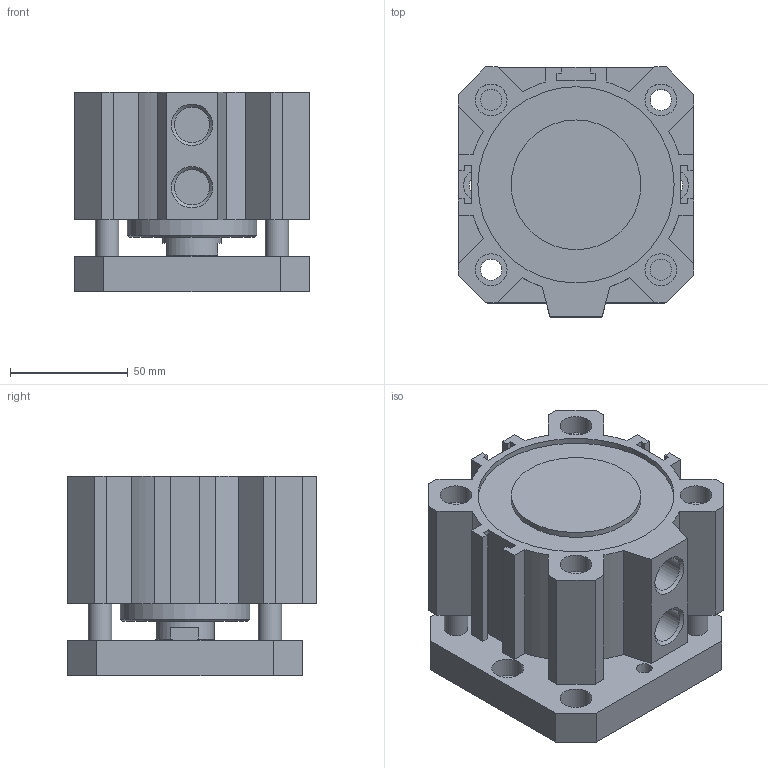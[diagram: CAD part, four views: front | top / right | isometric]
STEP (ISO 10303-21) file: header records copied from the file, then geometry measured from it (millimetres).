
FILE_DESCRIPTION(/* description */ (''),/* implementation_level */ '2;1');
FILE_NAME(/* name */ 'I:\Area Tecnica\Disegni\VARIE-3D\Componenti\1500\Ø80\15##_80_####_#\1501_80_0010_AR.stp',/* time_stamp */ '2016-08-24T14:11:41+02:00',/* author */ ('Maniean1'),/* organization */ ('Pneumax S.p.A.'),/* preprocessor_version */ 'ST-DEVELOPER v15.2',/* originating_system */ 'Autodesk Inventor 2014',/* authorisation */ '');
FILE_SCHEMA (('AUTOMOTIVE_DESIGN { 1 0 10303 214 3 1 1 }'));
Length unit declared in the file: millimetre
Products named in the file (3): C_1501_80_0010_AR; S_1501_80_0010_AR; 1501_80_0010_AR
Bounding box: 100 x 106 x 84.5 mm (x, y, z)
Volume: 543599.2 mm3; surface area: 121047.8 mm2
Topology: 2 solids, 2 shells, 139 faces, 341 edges, 228 vertices
Faces by surface type: plane 94, cylinder 40, cone 5
Full cylindrical faces by diameter (mm): 6.647 x2, 8.5 x2, 9 x4, 10 x4, 13.5 x10, 14.95 x2, 25 x2, 55 x2, 80 x2, 83.2 x2
Entity records: 4083 total; most frequent: CARTESIAN_POINT 674, DIRECTION 672, ORIENTED_EDGE 600, EDGE_CURVE 300, AXIS2_PLACEMENT_3D 232, VERTEX_POINT 222, EDGE_LOOP 216, LINE 208
